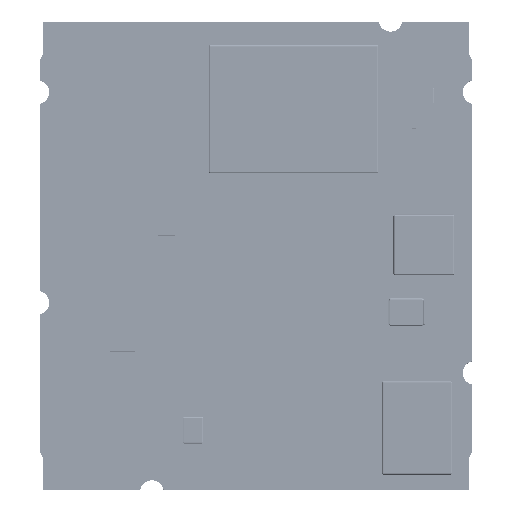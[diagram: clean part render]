
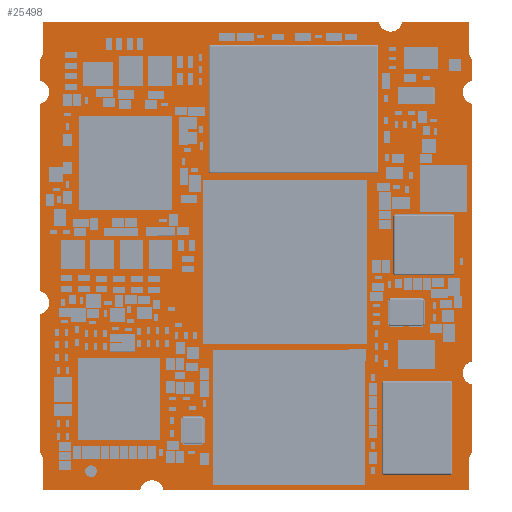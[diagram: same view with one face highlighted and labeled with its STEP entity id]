
A CAD part, top view. The second image highlights one B-rep face of the part: STEP entity #25498.
In plain terms, the highlighted planar face has unit normal (0, 0, 1).
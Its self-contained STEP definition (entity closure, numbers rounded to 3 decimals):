
#25498=ADVANCED_FACE('',(#46382),#46383,.T.);
#46382=FACE_OUTER_BOUND('',#70078,.T.);
#46383=PLANE('',#70079);
#70078=EDGE_LOOP('',(#100064,#100065,#100066,#100067,#100068,#100069,#100070,#100071,#100072,#100073,#100074,#100075,#100076,#100077,#100078,#100079,#100080,#100081,#100082,#100083,#100084,#100085,#100086,#100087));
#70079=AXIS2_PLACEMENT_3D('',#100088,#100089,#100090);
#100064=ORIENTED_EDGE('',*,*,#111600,.T.);
#100065=ORIENTED_EDGE('',*,*,#111608,.T.);
#100066=ORIENTED_EDGE('',*,*,#111595,.T.);
#100067=ORIENTED_EDGE('',*,*,#111609,.T.);
#100068=ORIENTED_EDGE('',*,*,#111610,.T.);
#100069=ORIENTED_EDGE('',*,*,#111611,.T.);
#100070=ORIENTED_EDGE('',*,*,#111612,.T.);
#100071=ORIENTED_EDGE('',*,*,#111613,.T.);
#100072=ORIENTED_EDGE('',*,*,#111614,.T.);
#100073=ORIENTED_EDGE('',*,*,#111615,.T.);
#100074=ORIENTED_EDGE('',*,*,#111616,.T.);
#100075=ORIENTED_EDGE('',*,*,#111617,.T.);
#100076=ORIENTED_EDGE('',*,*,#111618,.T.);
#100077=ORIENTED_EDGE('',*,*,#111619,.T.);
#100078=ORIENTED_EDGE('',*,*,#111620,.T.);
#100079=ORIENTED_EDGE('',*,*,#111621,.T.);
#100080=ORIENTED_EDGE('',*,*,#111622,.T.);
#100081=ORIENTED_EDGE('',*,*,#111623,.T.);
#100082=ORIENTED_EDGE('',*,*,#111624,.T.);
#100083=ORIENTED_EDGE('',*,*,#111605,.T.);
#100084=ORIENTED_EDGE('',*,*,#111625,.T.);
#100085=ORIENTED_EDGE('',*,*,#111626,.T.);
#100086=ORIENTED_EDGE('',*,*,#111627,.T.);
#100087=ORIENTED_EDGE('',*,*,#111628,.T.);
#100088=CARTESIAN_POINT('',(18.213,20.072,1.825));
#100089=DIRECTION('',(0.,0.,1.0));
#100090=DIRECTION('',(1.0,0.0,0.));
#111595=EDGE_CURVE('',#124764,#124762,#124765,.T.);
#111600=EDGE_CURVE('',#124773,#124771,#124774,.T.);
#111605=EDGE_CURVE('',#124782,#124780,#124783,.T.);
#111608=EDGE_CURVE('',#124771,#124764,#124786,.T.);
#111609=EDGE_CURVE('',#124762,#124787,#124788,.T.);
#111610=EDGE_CURVE('',#124787,#124789,#124790,.T.);
#111611=EDGE_CURVE('',#124789,#124791,#124792,.T.);
#111612=EDGE_CURVE('',#124791,#124793,#124794,.T.);
#111613=EDGE_CURVE('',#124793,#124795,#124796,.T.);
#111614=EDGE_CURVE('',#124795,#124797,#124798,.T.);
#111615=EDGE_CURVE('',#124797,#124799,#124800,.T.);
#111616=EDGE_CURVE('',#124799,#124801,#124802,.T.);
#111617=EDGE_CURVE('',#124801,#124803,#124804,.T.);
#111618=EDGE_CURVE('',#124803,#124805,#124806,.T.);
#111619=EDGE_CURVE('',#124805,#124807,#124808,.T.);
#111620=EDGE_CURVE('',#124807,#124809,#124810,.T.);
#111621=EDGE_CURVE('',#124809,#124811,#124812,.T.);
#111622=EDGE_CURVE('',#124811,#124813,#124814,.T.);
#111623=EDGE_CURVE('',#124813,#124815,#124816,.T.);
#111624=EDGE_CURVE('',#124815,#124782,#124817,.T.);
#111625=EDGE_CURVE('',#124780,#124818,#124819,.T.);
#111626=EDGE_CURVE('',#124818,#124820,#124821,.T.);
#111627=EDGE_CURVE('',#124820,#124822,#124823,.T.);
#111628=EDGE_CURVE('',#124822,#124773,#124824,.T.);
#124762=VERTEX_POINT('',#140768);
#124764=VERTEX_POINT('',#140771);
#124765=CIRCLE('',#140772,1.025);
#124771=VERTEX_POINT('',#140779);
#124773=VERTEX_POINT('',#140782);
#124774=CIRCLE('',#140783,1.025);
#124780=VERTEX_POINT('',#140790);
#124782=VERTEX_POINT('',#140793);
#124783=CIRCLE('',#140794,1.025);
#124786=LINE('',#140798,#140799);
#124787=VERTEX_POINT('',#140800);
#124788=LINE('',#140801,#140802);
#124789=VERTEX_POINT('',#140803);
#124790=CIRCLE('',#140804,1.);
#124791=VERTEX_POINT('',#140805);
#124792=LINE('',#140806,#140807);
#124793=VERTEX_POINT('',#140808);
#124794=LINE('',#140809,#140810);
#124795=VERTEX_POINT('',#140811);
#124796=CIRCLE('',#140812,1.025);
#124797=VERTEX_POINT('',#140813);
#124798=LINE('',#140814,#140815);
#124799=VERTEX_POINT('',#140816);
#124800=LINE('',#140817,#140818);
#124801=VERTEX_POINT('',#140819);
#124802=CIRCLE('',#140820,1.0);
#124803=VERTEX_POINT('',#140821);
#124804=LINE('',#140822,#140823);
#124805=VERTEX_POINT('',#140824);
#124806=CIRCLE('',#140825,1.025);
#124807=VERTEX_POINT('',#140826);
#124808=LINE('',#140827,#140828);
#124809=VERTEX_POINT('',#140829);
#124810=CIRCLE('',#140830,1.025);
#124811=VERTEX_POINT('',#140831);
#124812=LINE('',#140832,#140833);
#124813=VERTEX_POINT('',#140834);
#124814=CIRCLE('',#140835,1.);
#124815=VERTEX_POINT('',#140836);
#124816=LINE('',#140837,#140838);
#124817=LINE('',#140839,#140840);
#124818=VERTEX_POINT('',#140841);
#124819=LINE('',#140842,#140843);
#124820=VERTEX_POINT('',#140844);
#124821=LINE('',#140845,#140846);
#124822=VERTEX_POINT('',#140847);
#124823=CIRCLE('',#140848,1.0);
#124824=LINE('',#140849,#140850);
#140768=CARTESIAN_POINT('',(-0.3,14.995,1.825));
#140771=CARTESIAN_POINT('',(-0.3,17.005,1.825));
#140772=AXIS2_PLACEMENT_3D('',#154768,#154769,#154770);
#140779=CARTESIAN_POINT('',(-0.3,32.995,1.825));
#140782=CARTESIAN_POINT('',(-0.3,35.005,1.825));
#140783=AXIS2_PLACEMENT_3D('',#154776,#154777,#154778);
#140790=CARTESIAN_POINT('',(28.695,40.0,1.825));
#140793=CARTESIAN_POINT('',(30.705,40.0,1.825));
#140794=AXIS2_PLACEMENT_3D('',#154784,#154785,#154786);
#140798=CARTESIAN_POINT('',(-0.3,25.0,1.825));
#140799=VECTOR('',#154788,1.0);
#140800=CARTESIAN_POINT('',(-0.3,3.214,1.825));
#140801=CARTESIAN_POINT('',(-0.3,9.104,1.825));
#140802=VECTOR('',#154789,1.0);
#140803=CARTESIAN_POINT('',(0.,2.5,1.825));
#140804=AXIS2_PLACEMENT_3D('',#154790,#154791,#154792);
#140805=CARTESIAN_POINT('',(0.,0.,1.825));
#140806=CARTESIAN_POINT('',(0.,1.25,1.825));
#140807=VECTOR('',#154793,1.0);
#140808=CARTESIAN_POINT('',(8.295,0.,1.825));
#140809=CARTESIAN_POINT('',(4.147,0.,1.825));
#140810=VECTOR('',#154794,1.0);
#140811=CARTESIAN_POINT('',(10.305,0.,1.825));
#140812=AXIS2_PLACEMENT_3D('',#154795,#154796,#154797);
#140813=CARTESIAN_POINT('',(36.4,0.,1.825));
#140814=CARTESIAN_POINT('',(23.353,0.,1.825));
#140815=VECTOR('',#154798,1.0);
#140816=CARTESIAN_POINT('',(36.4,2.5,1.825));
#140817=CARTESIAN_POINT('',(36.4,1.25,1.825));
#140818=VECTOR('',#154799,1.0);
#140819=CARTESIAN_POINT('',(36.7,3.214,1.825));
#140820=AXIS2_PLACEMENT_3D('',#154800,#154801,#154802);
#140821=CARTESIAN_POINT('',(36.7,8.995,1.825));
#140822=CARTESIAN_POINT('',(36.7,6.104,1.825));
#140823=VECTOR('',#154803,1.0);
#140824=CARTESIAN_POINT('',(36.7,11.005,1.825));
#140825=AXIS2_PLACEMENT_3D('',#154804,#154805,#154806);
#140826=CARTESIAN_POINT('',(36.7,32.995,1.825));
#140827=CARTESIAN_POINT('',(36.7,22.0,1.825));
#140828=VECTOR('',#154807,1.0);
#140829=CARTESIAN_POINT('',(36.7,35.005,1.825));
#140830=AXIS2_PLACEMENT_3D('',#154808,#154809,#154810);
#140831=CARTESIAN_POINT('',(36.7,36.786,1.825));
#140832=CARTESIAN_POINT('',(36.7,35.896,1.825));
#140833=VECTOR('',#154811,1.0);
#140834=CARTESIAN_POINT('',(36.4,37.5,1.825));
#140835=AXIS2_PLACEMENT_3D('',#154812,#154813,#154814);
#140836=CARTESIAN_POINT('',(36.4,40.0,1.825));
#140837=CARTESIAN_POINT('',(36.4,38.75,1.825));
#140838=VECTOR('',#154815,1.0);
#140839=CARTESIAN_POINT('',(33.553,40.0,1.825));
#140840=VECTOR('',#154816,1.0);
#140841=CARTESIAN_POINT('',(0.,40.0,1.825));
#140842=CARTESIAN_POINT('',(14.347,40.0,1.825));
#140843=VECTOR('',#154817,1.0);
#140844=CARTESIAN_POINT('',(0.,37.5,1.825));
#140845=CARTESIAN_POINT('',(0.,38.75,1.825));
#140846=VECTOR('',#154818,1.0);
#140847=CARTESIAN_POINT('',(-0.3,36.786,1.825));
#140848=AXIS2_PLACEMENT_3D('',#154819,#154820,#154821);
#140849=CARTESIAN_POINT('',(-0.3,35.896,1.825));
#140850=VECTOR('',#154822,1.0);
#154768=CARTESIAN_POINT('',(-0.5,16.0,1.825));
#154769=DIRECTION('',(0.0,0.0,-1.0));
#154770=DIRECTION('',(0.195,0.981,0.0));
#154776=CARTESIAN_POINT('',(-0.5,34.0,1.825));
#154777=DIRECTION('',(0.0,0.0,-1.0));
#154778=DIRECTION('',(0.195,0.981,0.0));
#154784=CARTESIAN_POINT('',(29.7,40.2,1.825));
#154785=DIRECTION('',(0.0,0.0,-1.0));
#154786=DIRECTION('',(0.981,-0.195,0.0));
#154788=DIRECTION('',(0.,-1.0,0.0));
#154789=DIRECTION('',(0.,-1.0,0.0));
#154790=CARTESIAN_POINT('',(-1.0,2.5,1.825));
#154791=DIRECTION('',(0.0,0.0,-1.0));
#154792=DIRECTION('',(0.7,0.714,0.0));
#154793=DIRECTION('',(0.,-1.,0.0));
#154794=DIRECTION('',(1.0,0.0,0.0));
#154795=CARTESIAN_POINT('',(9.3,-0.2,1.825));
#154796=DIRECTION('',(0.0,0.0,-1.0));
#154797=DIRECTION('',(-0.981,0.195,0.0));
#154798=DIRECTION('',(1.0,0.,0.0));
#154799=DIRECTION('',(0.0,1.0,0.0));
#154800=CARTESIAN_POINT('',(37.4,2.5,1.825));
#154801=DIRECTION('',(0.0,0.0,-1.0));
#154802=DIRECTION('',(-1.0,0.0,0.0));
#154803=DIRECTION('',(0.,1.0,0.0));
#154804=CARTESIAN_POINT('',(36.9,10.0,1.825));
#154805=DIRECTION('',(-0.0,0.0,-1.0));
#154806=DIRECTION('',(-0.195,-0.981,0.0));
#154807=DIRECTION('',(0.0,1.0,0.0));
#154808=CARTESIAN_POINT('',(36.9,34.0,1.825));
#154809=DIRECTION('',(-0.0,0.0,-1.0));
#154810=DIRECTION('',(-0.195,-0.981,0.0));
#154811=DIRECTION('',(0.0,1.0,0.0));
#154812=CARTESIAN_POINT('',(37.4,37.5,1.825));
#154813=DIRECTION('',(-0.0,0.0,-1.0));
#154814=DIRECTION('',(-0.7,-0.714,0.0));
#154815=DIRECTION('',(0.,1.,0.0));
#154816=DIRECTION('',(-1.0,0.0,0.0));
#154817=DIRECTION('',(-1.0,0.0,0.0));
#154818=DIRECTION('',(0.0,-1.0,0.0));
#154819=CARTESIAN_POINT('',(-1.0,37.5,1.825));
#154820=DIRECTION('',(0.0,0.0,-1.0));
#154821=DIRECTION('',(1.0,0.0,0.0));
#154822=DIRECTION('',(0.,-1.,0.0));
